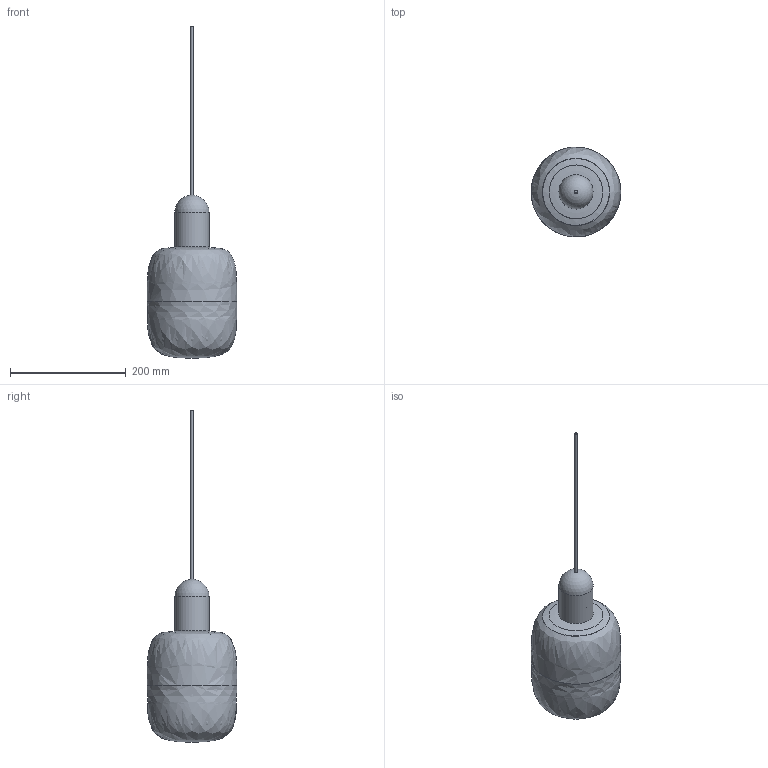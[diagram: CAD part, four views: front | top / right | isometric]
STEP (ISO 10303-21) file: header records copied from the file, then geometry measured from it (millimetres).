
FILE_DESCRIPTION(/* description */ ('','CAx-IF Rec.Pracs.---Representation and Presentation of Product Manufacturing Information (PMI)---4.0---2014-10-13'),/* implementation_level */ '2;1');
FILE_NAME(/* name */ 'Niche - Arca Tall - Placebo Pendant.step',/* time_stamp */ '2025-01-09T10:20:19-05:00',/* author */ (''),/* organization */ (''),/* preprocessor_version */ 'ST-DEVELOPER v20',/* originating_system */ 'Autodesk Translation Framework v13.20.0.188',/* authorisation */ '');
FILE_SCHEMA (('AP242_MANAGED_MODEL_BASED_3D_ENGINEERING_MIM_LF { 1 0 10303 442 1 1 4 }'));
Length unit declared in the file: inch
Products named in the file (4): Arca - Tall - Modular; Modular - Placebo - Bayonet Connector; Arca Tall V2 - Modular; Modular - Placedo - Cord Set
Assembly tree (3 placements, depth 2):
  Arca - Tall - Modular
    Modular - Placebo - Bayonet Connector
    Arca Tall V2 - Modular
    Modular - Placedo - Cord Set
Bounding box: 155.33 x 155.33 x 573.02 mm (x, y, z)
Volume: 243154.2 mm3; surface area: 266046.8 mm2
Topology: 5 solids, 5 shells, 112 faces, 296 edges, 195 vertices
Faces by surface type: plane 67, cylinder 25, bspline 10, torus 4, cone 4, sphere 2
Full cylindrical faces by diameter (mm): 4.572 x1, 5.715 x1, 37.592 x1, 42.926 x1, 46.482 x1, 51.308 x1, 53.848 x1, 56.032 x1, 59.08 x1
Entity records: 5614 total; most frequent: CARTESIAN_POINT 2683, ORIENTED_EDGE 592, DIRECTION 591, EDGE_CURVE 296, AXIS2_PLACEMENT_3D 209, VERTEX_POINT 195, LINE 173, VECTOR 173
